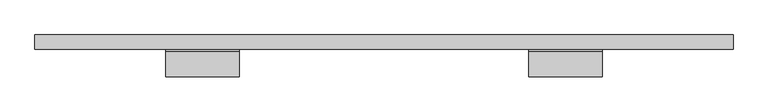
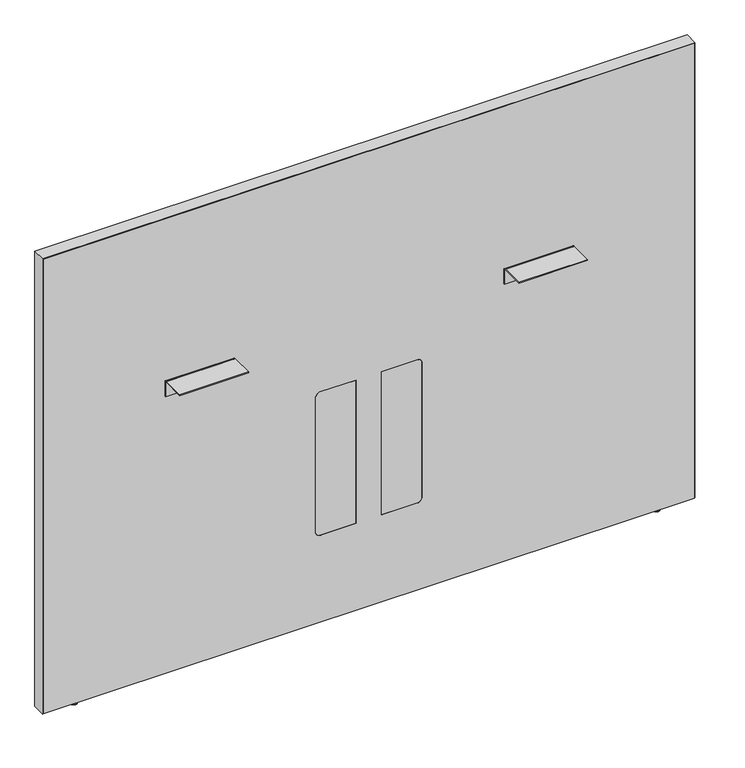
"""IFC4 building model written with IfcOpenShell, lengths in millimetres: furniture geometry, Steelcase - Answer Solution - Boundary Screen - Straight - Spanning : 42H x 57W."""

import ifcopenshell
import ifcopenshell.guid

model = None  # the IFC model being written
_history = None  # IfcOwnerHistory: only IFC2X3 demands one
_inside = {}  # id of a spatial element -> (the spatial element, [elements in it])
_under = {}  # id of a project, library or spatial element -> (it, [spatial elements below it])
_declared = {}  # id of a project -> (the project, [libraries it declares])
_typed = {}  # id of a type object -> (the type object, [elements of that type])
_made_of = {}  # id of a material, layer set ... -> (it, [elements and type objects made of it])


def new_model(schema):
    """Start an empty IFC model of exactly this schema.

    Asked for "IFC4X3", IfcOpenShell would pick the latest addendum, in which some entities
    have other attributes; the version numbers below select the first issue.
    IFC2X3 requires an IfcOwnerHistory on every rooted entity: one is made here for all.
    """
    global model, _history
    if schema == "IFC4X3":
        model = ifcopenshell.file(schema_version=(4, 3, 0, 0))
    else:
        model = ifcopenshell.file(schema=schema)
    _inside.clear()
    _under.clear()
    _declared.clear()
    _typed.clear()
    _made_of.clear()
    _history = None
    if model.schema == "IFC2X3":
        org = make("IfcOrganization", Name="unknown")
        user = make(
            "IfcPersonAndOrganization",
            ThePerson=make("IfcPerson", FamilyName="unknown"),
            TheOrganization=org,
        )
        app = make(
            "IfcApplication",
            ApplicationDeveloper=org,
            Version="unknown",
            ApplicationFullName="unknown",
            ApplicationIdentifier="unknown",
        )
        _history = make(
            "IfcOwnerHistory",
            OwningUser=user,
            OwningApplication=app,
            ChangeAction="ADDED",
            CreationDate=0,
        )
    return model


def make(cls, **values):
    """One entity of the class cls with the attributes given. An attribute that is None is left unset."""
    return model.create_entity(
        cls, **{name: value for name, value in values.items() if value is not None}
    )


def rooted(cls, **values):
    """An entity with a GlobalId (a new one), such as an element, a storey or a relation."""
    return make(cls, GlobalId=ifcopenshell.guid.new(), OwnerHistory=_history, **values)


def si_unit(unit_type, name, prefix=None):
    """IfcSIUnit, for example si_unit("LENGTHUNIT", "METRE", prefix="MILLI")."""
    return make("IfcSIUnit", UnitType=unit_type, Prefix=prefix, Name=name)


def assignment(units):
    """IfcUnitAssignment: the units of a project."""
    return None if units is None else make("IfcUnitAssignment", Units=units)


def point(xyz):
    """IfcCartesianPoint."""
    return None if xyz is None else make("IfcCartesianPoint", Coordinates=xyz)


def direction(xyz):
    """IfcDirection."""
    return None if xyz is None else make("IfcDirection", DirectionRatios=xyz)


def frame(location, z_axis=None, x_axis=None):
    """IfcAxis2Placement3D, a coordinate frame: its origin and axes. An axis left out is left unset."""
    return make(
        "IfcAxis2Placement3D",
        Location=point(location),
        Axis=direction(z_axis),
        RefDirection=direction(x_axis),
    )


def frame_2d(location, x_axis=None):
    """IfcAxis2Placement2D, a coordinate frame in the plane: its origin and x axis."""
    return make(
        "IfcAxis2Placement2D", Location=point(location), RefDirection=direction(x_axis)
    )


def origin():
    """The frame at (0, 0, 0) with its axes left unset."""
    return frame((0.0, 0.0, 0.0))


def place(relative_to, where):
    """IfcLocalPlacement: puts the frame where relative to a parent placement (None: the world)."""
    return make(
        "IfcLocalPlacement", PlacementRelTo=relative_to, RelativePlacement=where
    )


def context(
    kind, dimensions, precision=None, world=None, true_north=None, identifier=None
):
    """IfcGeometricRepresentationContext, for example the 3D "Model" context."""
    return make(
        "IfcGeometricRepresentationContext",
        ContextIdentifier=identifier,
        ContextType=kind,
        CoordinateSpaceDimension=dimensions,
        Precision=precision,
        WorldCoordinateSystem=world,
        TrueNorth=true_north,
    )


def project(units=None, contexts=None):
    """IfcProject with its units and contexts."""
    return rooted(
        "IfcProject",
        Name="project",
        RepresentationContexts=contexts,
        UnitsInContext=assignment(units),
    )


def spatial(cls, under=None, at=None, **own):
    """A site, building, storey or space (cls), placed at a placement, below another one or the project."""
    s = rooted(cls, ObjectPlacement=at, **own)
    if under is not None:
        _under.setdefault(under.id(), (under, []))[1].append(s)
    return s


def polyline(points):
    """IfcPolyline through the points."""
    return make("IfcPolyline", Points=[point(p) for p in points])


def circle_curve(where, radius):
    """IfcCircle in the frame where."""
    return make("IfcCircle", Position=where, Radius=radius)


def ellipse_curve(where, semi_axis1, semi_axis2):
    """IfcEllipse in the frame where."""
    return make(
        "IfcEllipse", Position=where, SemiAxis1=semi_axis1, SemiAxis2=semi_axis2
    )


def trimmed(basis, trim1, trim2, sense, master):
    """IfcTrimmedCurve: the piece of a basis curve between two trims."""
    return make(
        "IfcTrimmedCurve",
        BasisCurve=basis,
        Trim1=trim1,
        Trim2=trim2,
        SenseAgreement=sense,
        MasterRepresentation=master,
    )


def segment(curve, same_sense, transition):
    """IfcCompositeCurveSegment."""
    return make(
        "IfcCompositeCurveSegment",
        Transition=transition,
        SameSense=same_sense,
        ParentCurve=curve,
    )


def composite_curve(segments, self_intersect=None):
    """IfcCompositeCurve: segments joined end to end."""
    return make("IfcCompositeCurve", Segments=segments, SelfIntersect=self_intersect)


def outline(outer, holes=None, kind="AREA"):
    """IfcArbitraryClosedProfileDef: a profile drawn as a closed curve; with holes, ...WithVoids."""
    if holes is None:
        return make("IfcArbitraryClosedProfileDef", ProfileType=kind, OuterCurve=outer)
    return make(
        "IfcArbitraryProfileDefWithVoids",
        ProfileType=kind,
        OuterCurve=outer,
        InnerCurves=holes,
    )


def extrude(swept, where, along, depth):
    """IfcExtrudedAreaSolid: the profile swept, set in the frame where, extruded along a direction by depth."""
    return make(
        "IfcExtrudedAreaSolid",
        SweptArea=swept,
        Position=where,
        ExtrudedDirection=direction(along),
        Depth=depth,
    )


def shape(context_of_items, identifier, shape_type, items):
    """IfcShapeRepresentation: the items that make up one representation, for example the "Body"."""
    return make(
        "IfcShapeRepresentation",
        ContextOfItems=context_of_items,
        RepresentationIdentifier=identifier,
        RepresentationType=shape_type,
        Items=items,
    )


def source(mapping_origin, context_of_items, identifier, shape_type, items):
    """IfcRepresentationMap: a shape defined once, which mapped items show again and again."""
    return make(
        "IfcRepresentationMap",
        MappingOrigin=mapping_origin,
        MappedRepresentation=shape(context_of_items, identifier, shape_type, items),
    )


def transform(
    local_origin,
    x_axis=None,
    y_axis=None,
    z_axis=None,
    scale=None,
    scale2=None,
    scale3=None,
    uniform=True,
):
    """IfcCartesianTransformationOperator3D, or its non-uniform kind. x_axis, y_axis, z_axis: its Axis1, 2, 3."""
    if uniform:
        return make(
            "IfcCartesianTransformationOperator3D",
            Axis1=direction(x_axis),
            Axis2=direction(y_axis),
            LocalOrigin=point(local_origin),
            Scale=scale,
            Axis3=direction(z_axis),
        )
    return make(
        "IfcCartesianTransformationOperator3DnonUniform",
        Axis1=direction(x_axis),
        Axis2=direction(y_axis),
        LocalOrigin=point(local_origin),
        Scale=scale,
        Axis3=direction(z_axis),
        Scale2=scale2,
        Scale3=scale3,
    )


def mapped(mapping_source, mapping_target):
    """IfcMappedItem: shows the shape of a source again, moved by a transform."""
    return make(
        "IfcMappedItem", MappingSource=mapping_source, MappingTarget=mapping_target
    )


def made_of(thing, what):
    """Note that an element or type object is made of a material, layer set ...; save() writes the relation."""
    if what is not None:
        _made_of.setdefault(what.id(), (what, []))[1].append(thing)
    return thing


def element(
    cls,
    number,
    at=None,
    inside=None,
    cuts=None,
    type_object=None,
    material=None,
    context=None,
    identifier="Body",
    shape_type=None,
    held_by="IfcProductDefinitionShape",
    body=None,
    shapes=None,
    **own,
):
    """One element of the class cls, such as IfcWall. Its Tag is "e" and its number.

    at: its placement. inside: the storey or other place that contains it. cuts: it is an
    opening in that element (IfcRelVoidsElement). A single representation is given by context,
    identifier, shape_type and body (its items); several are given by shapes. held_by: the class
    of the entity that holds the representations. save() writes the other relations.
    """
    e = rooted(cls, Tag="e%d" % number, ObjectPlacement=at, **own)
    if body is not None:
        shapes = [shape(context, identifier, shape_type, body)]
    if shapes is not None:
        e.Representation = make(held_by, Representations=shapes)
    if inside is not None:
        _inside.setdefault(inside.id(), (inside, []))[1].append(e)
    if cuts is not None:
        rooted(
            "IfcRelVoidsElement", RelatingBuildingElement=cuts, RelatedOpeningElement=e
        )
    if type_object is not None:
        _typed.setdefault(type_object.id(), (type_object, []))[1].append(e)
    return made_of(e, material)


def aggregate(whole, parts):
    """IfcRelAggregates: a whole, such as a stair, and the parts it consists of."""
    return rooted("IfcRelAggregates", RelatingObject=whole, RelatedObjects=parts)


def save(model, path):
    """Write the relations noted so far, then the file.

    IfcRelAggregates (storeys below a building ...), IfcRelContainedInSpatialStructure (elements
    in a storey), IfcRelDefinesByType, IfcRelAssociatesMaterial and IfcRelDeclares: one each for
    every whole, place, type object, material and project.
    """
    for whole, parts in _under.values():
        aggregate(whole, parts)
    for where, things in _inside.values():
        rooted(
            "IfcRelContainedInSpatialStructure",
            RelatedElements=things,
            RelatingStructure=where,
        )
    for kind, things in _typed.values():
        rooted("IfcRelDefinesByType", RelatedObjects=things, RelatingType=kind)
    for what, things in _made_of.values():
        rooted("IfcRelAssociatesMaterial", RelatedObjects=things, RelatingMaterial=what)
    for by, libraries in _declared.values():
        rooted("IfcRelDeclares", RelatingContext=by, RelatedDefinitions=libraries)
    model.write(path)


def plane_surface(at):
    """IfcPlane: the flat surface through the origin of the frame at, square to its z axis."""
    return make("IfcPlane", Position=at)


def cylinder_surface(at, radius):
    """IfcCylindricalSurface: all points at the distance radius from the z axis of the frame at."""
    return make("IfcCylindricalSurface", Position=at, Radius=radius)


def revolved_surface(curve, axis_point, axis_direction):
    """IfcSurfaceOfRevolution: the curve turned about the line through axis_point along axis_direction."""
    return make(
        "IfcSurfaceOfRevolution",
        SweptCurve=make("IfcArbitraryOpenProfileDef", ProfileType="CURVE", Curve=curve),
        AxisPosition=make("IfcAxis1Placement", Location=point(axis_point), Axis=direction(axis_direction)),
    )


def advanced_brep(points, edges, surfaces, faces):
    """IfcAdvancedBrep: a solid bounded by faces that lie on surfaces and meet in shared edges.

    An edge is (start, end): straight between two places in points (the first is 0);
    or (start, end, curve); or (start, end, curve, False) where it runs against its curve.
    A face is (place in surfaces, loops), or (place, loops, False) where it looks against
    its surface's normal. A loop lists edges by number (the first is 1), with a minus sign
    where the edge is run from its end to its start. The first loop is the outer one.
    """
    corners = [point(p) for p in points]
    vertices = [make("IfcVertexPoint", VertexGeometry=c) for c in corners]
    made = []
    for start, end, *more in edges:
        made.append(
            make(
                "IfcEdgeCurve",
                EdgeStart=vertices[start],
                EdgeEnd=vertices[end],
                EdgeGeometry=more[0] if more else make("IfcPolyline", Points=[corners[start], corners[end]]),
                SameSense=more[1] if len(more) > 1 else True,
            )
        )
    hull = []
    for where, loops, *sense in faces:
        bounds = []
        for j, loop in enumerate(loops):
            ring = [make("IfcOrientedEdge", EdgeElement=made[abs(k) - 1], Orientation=k > 0) for k in loop]
            bounds.append(
                make(
                    "IfcFaceOuterBound" if j == 0 else "IfcFaceBound",
                    Bound=make("IfcEdgeLoop", EdgeList=ring),
                    Orientation=True,
                )
            )
        hull.append(make("IfcAdvancedFace", Bounds=bounds, FaceSurface=surfaces[where], SameSense=sense[0] if sense else True))
    return make("IfcAdvancedBrep", Outer=make("IfcClosedShell", CfsFaces=hull))


def furniture_466a3dec(model_context):
    return source(origin(), model_context, "Body", "SolidModel", [
        advanced_brep(
        [(-416.8902705, -14.8449166, 9.9059849), (-416.8902705, -5.9309607, 9.9059849), (-416.8902705, -23.7588726, 9.9059849), (-416.8902705, -5.9309607, 2.9673238), (-416.8902705, -23.7588726, 2.9673238), (-416.8902705, -6.8982978, 2.9673238), (-416.8902705, -22.7915354, 2.9673238), (-416.8902705, -6.8982978, 1.6569081), (-416.8902705, -22.7915354, 1.6569081), (-416.8902705, -8.5552059, 0.0), (-416.8902705, -21.1346274, 0.0), (-416.8902705, -14.8449166, 0.0)],
        [
            (0, 1),
            (1, 2, circle_curve(frame((-416.8902705, -14.8449166, 9.9059849), z_axis=(0.0, 0.0, 1.0), x_axis=(0.0, 1.0, 0.0)), 8.913956)),
            (2, 0),
            (2, 1, circle_curve(frame((-416.8902705, -14.8449166, 9.9059849), z_axis=(0.0, 0.0, 1.0), x_axis=(0.0, 1.0, 0.0)), 8.913956)),
            (1, 3),
            (3, 4, circle_curve(frame((-416.8902705, -14.8449166, 2.9673238), z_axis=(0.0, 0.0, 1.0), x_axis=(0.0, 1.0, 0.0)), 8.913956)),
            (4, 2),
            (4, 3, circle_curve(frame((-416.8902705, -14.8449166, 2.9673238), z_axis=(0.0, 0.0, 1.0), x_axis=(0.0, 1.0, 0.0)), 8.913956)),
            (3, 5),
            (5, 6, circle_curve(frame((-416.8902705, -14.8449166, 2.9673238), z_axis=(0.0, 0.0, 1.0), x_axis=(0.0, 1.0, 0.0)), 7.9466188)),
            (6, 4),
            (6, 5, circle_curve(frame((-416.8902705, -14.8449166, 2.9673238), z_axis=(0.0, 0.0, 1.0), x_axis=(0.0, 1.0, 0.0)), 7.9466188)),
            (5, 7),
            (7, 8, circle_curve(frame((-416.8902705, -14.8449166, 1.6569081), z_axis=(0.0, 0.0, 1.0), x_axis=(0.0, 1.0, 0.0)), 7.9466188)),
            (8, 6),
            (8, 7, circle_curve(frame((-416.8902705, -14.8449166, 1.6569081), z_axis=(0.0, 0.0, 1.0), x_axis=(0.0, 1.0, 0.0)), 7.9466188)),
            (7, 9, circle_curve(frame((-416.8902705, -8.5552059, 1.6569081), z_axis=(-1.0, 0.0, 0.0), x_axis=(0.0, 1.0, 0.0)), 1.6569081)),
            (9, 10, circle_curve(frame((-416.8902705, -14.8449166, 0.0), z_axis=(0.0, 0.0, 1.0), x_axis=(0.0, 1.0, 0.0)), 6.2897107)),
            (10, 8, circle_curve(frame((-416.8902705, -21.1346274, 1.6569081), z_axis=(-1.0, 0.0, 0.0), x_axis=(0.0, -1.0, 0.0)), 1.6569081)),
            (10, 9, circle_curve(frame((-416.8902705, -14.8449166, 0.0), z_axis=(0.0, 0.0, 1.0), x_axis=(0.0, 1.0, 0.0)), 6.2897107)),
            (9, 11),
            (11, 10),
        ],
        [
            plane_surface(frame((-416.8902705, -14.8449166, 9.9059849), z_axis=(0.0, 0.0, 1.0), x_axis=(0.0, 1.0, 0.0))),
            cylinder_surface(frame((-416.8902705, -14.8449166, 9.9059849), z_axis=(0.0, 0.0, 1.0), x_axis=(0.0, 1.0, 0.0)), 8.913956),
            plane_surface(frame((-416.8902705, -14.8449166, 2.9673238), z_axis=(0.0, 0.0, -1.0), x_axis=(0.0, 1.0, 0.0))),
            cylinder_surface(frame((-416.8902705, -14.8449166, 9.9059849), z_axis=(0.0, 0.0, 1.0), x_axis=(0.0, 1.0, 0.0)), 7.9466188),
            revolved_surface(trimmed(ellipse_curve(frame((-416.8902705, -8.5552059, 1.6569081), z_axis=(1.0, 0.0, 0.0), x_axis=(0.0, 1.0, 0.0)), 1.6569081, 1.6569081), [point((-416.8902705, -8.5552059, 0.0))], [point((-416.8902705, -6.8982978, 1.6569081))], True, "CARTESIAN"), (-416.8902705, -14.8449166, 9.9059849), (0.0, 0.0, 1.0)),
            plane_surface(frame((-416.8902705, -14.8449166, 0.0), z_axis=(0.0, 0.0, -1.0), x_axis=(0.0, 1.0, 0.0))),
        ],
        [
            (0, [[1, 2, 3]]),
            (0, [[-3, 4, -1]]),
            (1, [[-2, 5, 6, 7]]),
            (1, [[-4, -7, 8, -5]]),
            (2, [[-6, 9, 10, 11]]),
            (2, [[-8, -11, 12, -9]]),
            (3, [[-10, 13, 14, 15]]),
            (3, [[-12, -15, 16, -13]]),
            (4, [[-14, 17, 18, 19]]),
            (4, [[-16, -19, 20, -17]]),
            (5, [[-18, 21, 22]]),
            (5, [[-20, -22, -21]]),
        ],
    ),
        extrude(outline(composite_curve([segment(polyline([(-86.8398151, 696.4680019), (-86.8398151, 698.5), (-34.9450855, 698.5)]), True, "CONTINUOUS"), segment(trimmed(circle_curve(frame_2d((-34.9450855, 693.2447477)), 5.2552523), [point((-34.9450855, 698.5))], [point((-29.6898332, 693.2447477))], False, "CARTESIAN"), True, "CONTINUOUS"), segment(polyline([(-29.6898332, 693.2447477), (-29.6898332, 660.4), (-31.7218162, 660.4), (-31.7218162, 693.0058743)]), True, "CONTINUOUS"), segment(trimmed(circle_curve(frame_2d((-35.1839438, 693.0058743)), 3.4621276), [point((-31.7218162, 693.0058743))], [point((-35.1839438, 696.4680019))], True, "CARTESIAN"), True, "CONTINUOUS"), segment(polyline([(-35.1839438, 696.4680019), (-86.8398151, 696.4680019)]), True, "CONTINUOUS")], self_intersect=False)), frame((529.7282189, 0.0, 0.0), z_axis=(1.0, 0.0, 0.0), x_axis=(0.0, 1.0, 0.0)), (0.0, 0.0, 1.0), 152.4000969),
        extrude(outline(composite_curve([segment(polyline([(-86.8398151, 696.4680019), (-86.8398151, 698.5), (-34.9450855, 698.5)]), True, "CONTINUOUS"), segment(trimmed(circle_curve(frame_2d((-34.9450855, 693.2447477)), 5.2552523), [point((-34.9450855, 698.5))], [point((-29.6898332, 693.2447477))], False, "CARTESIAN"), True, "CONTINUOUS"), segment(polyline([(-29.6898332, 693.2447477), (-29.6898332, 660.4), (-31.7218162, 660.4), (-31.7218162, 693.0058743)]), True, "CONTINUOUS"), segment(trimmed(circle_curve(frame_2d((-35.1839438, 693.0058743)), 3.4621276), [point((-31.7218162, 693.0058743))], [point((-35.1839438, 696.4680019))], True, "CARTESIAN"), True, "CONTINUOUS"), segment(polyline([(-35.1839438, 696.4680019), (-86.8398151, 696.4680019)]), True, "CONTINUOUS")], self_intersect=False)), frame((-222.4884581, 0.0, 0.0), z_axis=(1.0, 0.0, 0.0), x_axis=(0.0, 1.0, 0.0)), (0.0, 0.0, 1.0), 152.4000969),
        advanced_brep(
        [(876.5286488, -23.7588726, 9.9059849), (876.5286488, -5.9309607, 9.9059849), (876.5286488, -14.8449166, 9.9059849), (876.5286488, -23.7588726, 2.9673238), (876.5286488, -5.9309607, 2.9673238), (876.5286488, -22.7915354, 2.9673238), (876.5286488, -6.8982978, 2.9673238), (876.5286488, -22.7915354, 1.6569081), (876.5286488, -6.8982978, 1.6569081), (876.5286488, -21.1346274, 0.0), (876.5286488, -8.5552059, 0.0), (876.5286488, -14.8449166, 0.0)],
        [
            (0, 1, circle_curve(frame((876.5286488, -14.8449166, 9.9059849), z_axis=(0.0, 0.0, 1.0), x_axis=(0.0, 1.0, 0.0)), 8.913956)),
            (1, 2),
            (2, 0),
            (1, 0, circle_curve(frame((876.5286488, -14.8449166, 9.9059849), z_axis=(0.0, 0.0, 1.0), x_axis=(0.0, 1.0, 0.0)), 8.913956)),
            (3, 4, circle_curve(frame((876.5286488, -14.8449166, 2.9673238), z_axis=(0.0, 0.0, 1.0), x_axis=(0.0, 1.0, 0.0)), 8.913956)),
            (4, 1),
            (0, 3),
            (4, 3, circle_curve(frame((876.5286488, -14.8449166, 2.9673238), z_axis=(0.0, 0.0, 1.0), x_axis=(0.0, 1.0, 0.0)), 8.913956)),
            (5, 6, circle_curve(frame((876.5286488, -14.8449166, 2.9673238), z_axis=(0.0, 0.0, 1.0), x_axis=(0.0, 1.0, 0.0)), 7.9466188)),
            (6, 4),
            (3, 5),
            (6, 5, circle_curve(frame((876.5286488, -14.8449166, 2.9673238), z_axis=(0.0, 0.0, 1.0), x_axis=(0.0, 1.0, 0.0)), 7.9466188)),
            (7, 8, circle_curve(frame((876.5286488, -14.8449166, 1.6569081), z_axis=(0.0, 0.0, 1.0), x_axis=(0.0, 1.0, 0.0)), 7.9466188)),
            (8, 6),
            (5, 7),
            (8, 7, circle_curve(frame((876.5286488, -14.8449166, 1.6569081), z_axis=(0.0, 0.0, 1.0), x_axis=(0.0, 1.0, 0.0)), 7.9466188)),
            (9, 10, circle_curve(frame((876.5286488, -14.8449166, 0.0), z_axis=(0.0, 0.0, 1.0), x_axis=(0.0, 1.0, 0.0)), 6.2897107)),
            (10, 8, circle_curve(frame((876.5286488, -8.5552059, 1.6569081), z_axis=(1.0, 0.0, 0.0), x_axis=(0.0, 1.0, 0.0)), 1.6569081)),
            (7, 9, circle_curve(frame((876.5286488, -21.1346274, 1.6569081), z_axis=(1.0, 0.0, 0.0), x_axis=(0.0, -1.0, 0.0)), 1.6569081)),
            (10, 9, circle_curve(frame((876.5286488, -14.8449166, 0.0), z_axis=(0.0, 0.0, 1.0), x_axis=(0.0, 1.0, 0.0)), 6.2897107)),
            (11, 10),
            (9, 11),
        ],
        [
            plane_surface(frame((876.5286488, -14.8449166, 9.9059849), z_axis=(0.0, 0.0, 1.0), x_axis=(0.0, 1.0, 0.0))),
            cylinder_surface(frame((876.5286488, -14.8449166, 9.9059849), z_axis=(0.0, 0.0, -1.0), x_axis=(0.0, 1.0, 0.0)), 8.913956),
            plane_surface(frame((876.5286488, -14.8449166, 2.9673238), z_axis=(0.0, 0.0, -1.0), x_axis=(0.0, 1.0, 0.0))),
            cylinder_surface(frame((876.5286488, -14.8449166, 9.9059849), z_axis=(0.0, 0.0, -1.0), x_axis=(0.0, 1.0, 0.0)), 7.9466188),
            revolved_surface(trimmed(ellipse_curve(frame((876.5286488, -8.5552059, 1.6569081), z_axis=(-1.0, 0.0, 0.0), x_axis=(0.0, 1.0, 0.0)), 1.6569081, 1.6569081), [point((876.5286488, -6.8982978, 1.6569081))], [point((876.5286488, -8.5552059, 0.0))], True, "CARTESIAN"), (876.5286488, -14.8449166, 9.9059849), (0.0, 0.0, -1.0)),
            plane_surface(frame((876.5286488, -14.8449166, 0.0), z_axis=(0.0, 0.0, -1.0), x_axis=(0.0, 1.0, 0.0))),
        ],
        [
            (0, [[1, 2, 3]]),
            (0, [[4, -3, -2]]),
            (1, [[5, 6, -1, 7]]),
            (1, [[8, -7, -4, -6]]),
            (2, [[9, 10, -5, 11]]),
            (2, [[12, -11, -8, -10]]),
            (3, [[13, 14, -9, 15]]),
            (3, [[16, -15, -12, -14]]),
            (4, [[17, 18, -13, 19]]),
            (4, [[20, -19, -16, -18]]),
            (5, [[21, -17, 22]]),
            (5, [[-22, -20, -21]]),
        ],
    ),
        advanced_brep(
        [(952.6780168, 0.0, 1076.742118), (952.6780168, 0.0, 9.9059849), (-493.0902221, 0.0, 9.9059849), (-493.0902221, 0.0, 1076.742118), (952.6780168, -29.6898332, 1076.742118), (-493.0902221, -29.6898332, 1076.742118), (-493.0902221, -29.6898332, 9.9059849), (952.6780168, -29.6898332, 9.9059849), (337.7883813, -29.6898332, 549.6162029), (347.9483813, -29.6898332, 539.4562029), (347.9483813, -29.6898332, 223.9362137), (337.7883813, -29.6898332, 213.7762137), (258.1344836, -29.6898332, 213.7762137), (258.1344836, -29.6898332, 549.6162029), (121.849997, -29.6898332, 549.6162029), (201.5038947, -29.6898332, 549.6162029), (201.5038947, -29.6898332, 213.7762137), (121.849997, -29.6898332, 213.7762137), (111.689997, -29.6898332, 223.9362137), (111.689997, -29.6898332, 539.4562029), (258.1344836, -29.0550397, 549.6162029), (337.7883813, -29.0550397, 549.6162029), (258.1344836, -29.0550397, 213.7762137), (337.7883813, -29.0550397, 213.7762137), (347.9483813, -29.0550397, 223.9362137), (347.9483813, -29.0550397, 539.4562029), (121.849997, -29.0550397, 549.6162029), (111.689997, -29.0550397, 539.4562029), (111.689997, -29.0550397, 223.9362137), (121.849997, -29.0550397, 213.7762137), (201.5038947, -29.0550397, 213.7762137), (201.5038947, -29.0550397, 549.6162029)],
        [
            (0, 1),
            (1, 2),
            (2, 3),
            (3, 0),
            (4, 5),
            (5, 6),
            (6, 7),
            (7, 4),
            (8, 9, circle_curve(frame((337.7883813, -29.6898332, 539.4562029), z_axis=(0.0, 1.0, 0.0), x_axis=(0.0, 0.0, 1.0)), 10.16)),
            (9, 10),
            (10, 11, circle_curve(frame((337.7883813, -29.6898332, 223.9362137), z_axis=(0.0, 1.0, 0.0), x_axis=(0.0, 0.0, 1.0)), 10.16)),
            (11, 12),
            (12, 13),
            (13, 8),
            (14, 15),
            (15, 16),
            (16, 17),
            (17, 18, circle_curve(frame((121.849997, -29.6898332, 223.9362137), z_axis=(0.0, 1.0, 0.0), x_axis=(0.0, 0.0, 1.0)), 10.16)),
            (18, 19),
            (19, 14, circle_curve(frame((121.849997, -29.6898332, 539.4562029), z_axis=(0.0, 1.0, 0.0), x_axis=(0.0, 0.0, 1.0)), 10.16)),
            (0, 4),
            (7, 1),
            (6, 2),
            (5, 3),
            (13, 20),
            (20, 21),
            (21, 8),
            (12, 22),
            (22, 20),
            (11, 23),
            (23, 22),
            (10, 24),
            (24, 23, circle_curve(frame((337.7883813, -29.0550397, 223.9362137), z_axis=(0.0, 1.0, 0.0), x_axis=(0.0, 0.0, 1.0)), 10.16)),
            (9, 25),
            (25, 24),
            (21, 25, circle_curve(frame((337.7883813, -29.0550397, 539.4562029), z_axis=(0.0, 1.0, 0.0), x_axis=(0.0, 0.0, 1.0)), 10.16)),
            (26, 27, circle_curve(frame((121.849997, -29.0550397, 539.4562029), z_axis=(0.0, -1.0, 0.0), x_axis=(0.0, 0.0, 1.0)), 10.16)),
            (27, 28),
            (28, 29, circle_curve(frame((121.849997, -29.0550397, 223.9362137), z_axis=(0.0, -1.0, 0.0), x_axis=(0.0, 0.0, 1.0)), 10.16)),
            (29, 30),
            (30, 31),
            (31, 26),
            (19, 27),
            (26, 14),
            (18, 28),
            (17, 29),
            (16, 30),
            (15, 31),
        ],
        [
            plane_surface(frame((952.6780168, 0.0, 1076.742118), z_axis=(0.0, 1.0, 0.0), x_axis=(0.0, 0.0, -1.0))),
            plane_surface(frame((952.6780168, -29.6898332, 1076.742118), z_axis=(0.0, -1.0, 0.0), x_axis=(0.0, 0.0, 1.0))),
            plane_surface(frame((952.6780168, 0.0, 1076.742118), z_axis=(1.0, 0.0, 0.0), x_axis=(0.0, -1.0, 0.0))),
            plane_surface(frame((952.6780168, 0.0, 9.9059849), z_axis=(0.0, 0.0, -1.0), x_axis=(0.0, -1.0, 0.0))),
            plane_surface(frame((-493.0902221, 0.0, 9.9059849), z_axis=(-1.0, 0.0, 0.0), x_axis=(0.0, -1.0, 0.0))),
            plane_surface(frame((-493.0902221, 0.0, 1076.742118), z_axis=(0.0, 0.0, 1.0), x_axis=(0.0, -1.0, 0.0))),
            plane_surface(frame((337.7883813, 0.0, 549.6162029), z_axis=(0.0, 0.0, -1.0), x_axis=(0.0, -1.0, 0.0))),
            plane_surface(frame((258.1344836, 0.0, 549.6162029), z_axis=(1.0, 0.0, 0.0), x_axis=(0.0, -1.0, 0.0))),
            plane_surface(frame((258.1344836, 0.0, 213.7762137), z_axis=(0.0, 0.0, 1.0), x_axis=(0.0, -1.0, 0.0))),
            revolved_surface(polyline([(337.7883813, -29.6898332, 234.0962137), (337.7883813, -29.0550397, 234.0962137)]), (337.7883813, -29.6898332, 223.9362137), (0.0, -1.0, 0.0)),
            plane_surface(frame((347.9483813, 0.0, 223.9362137), z_axis=(-1.0, 0.0, 0.0), x_axis=(0.0, -1.0, 0.0))),
            revolved_surface(polyline([(337.7883813, -29.6898332, 549.6162029), (337.7883813, -29.0550397, 549.6162029)]), (337.7883813, -29.6898332, 539.4562029), (0.0, -1.0, 0.0)),
            plane_surface(frame((347.9483813, -29.0550397, 549.6162029), z_axis=(0.0, -1.0, 0.0), x_axis=(0.0, 0.0, 1.0))),
            revolved_surface(polyline([(121.849997, -29.6898332, 549.6162029), (121.849997, -29.0550397, 549.6162029)]), (121.849997, -29.6898332, 539.4562029), (0.0, -1.0, 0.0)),
            plane_surface(frame((111.689997, 0.0, 539.4562029), z_axis=(1.0, 0.0, 0.0), x_axis=(0.0, -1.0, 0.0))),
            revolved_surface(polyline([(121.849997, -29.6898332, 234.0962137), (121.849997, -29.0550397, 234.0962137)]), (121.849997, -29.6898332, 223.9362137), (0.0, -1.0, 0.0)),
            plane_surface(frame((121.849997, 0.0, 213.7762137), z_axis=(0.0, 0.0, 1.0), x_axis=(0.0, -1.0, 0.0))),
            plane_surface(frame((201.5038947, 0.0, 213.7762137), z_axis=(-1.0, 0.0, 0.0), x_axis=(0.0, -1.0, 0.0))),
            plane_surface(frame((201.5038947, 0.0, 549.6162029), z_axis=(0.0, 0.0, -1.0), x_axis=(0.0, -1.0, 0.0))),
        ],
        [
            (0, [[1, 2, 3, 4]]),
            (1, [[5, 6, 7, 8], [9, 10, 11, 12, 13, 14], [15, 16, 17, 18, 19, 20]]),
            (2, [[-1, 21, -8, 22]]),
            (3, [[-2, -22, -7, 23]]),
            (4, [[-3, -23, -6, 24]]),
            (5, [[-4, -24, -5, -21]]),
            (6, [[-14, 25, 26, 27]]),
            (7, [[-13, 28, 29, -25]]),
            (8, [[-12, 30, 31, -28]]),
            (9, [[-11, 32, 33, -30]]),
            (10, [[-10, 34, 35, -32]]),
            (11, [[-9, -27, 36, -34]]),
            (12, [[-26, -29, -31, -33, -35, -36]]),
            (12, [[37, 38, 39, 40, 41, 42]]),
            (13, [[-20, 43, -37, 44]]),
            (14, [[-19, 45, -38, -43]]),
            (15, [[-18, 46, -39, -45]]),
            (16, [[-17, 47, -40, -46]]),
            (17, [[-16, 48, -41, -47]]),
            (18, [[-15, -44, -42, -48]]),
        ],
    ),
        extrude(outline(composite_curve([segment(polyline([(549.6162029, 337.7883813), (549.6162029, 258.1344836), (213.7762137, 258.1344836), (213.7762137, 337.7883813)]), True, "CONTINUOUS"), segment(trimmed(circle_curve(frame_2d((223.9362137, 337.7883813)), 10.16), [point((213.7762137, 337.7883813))], [point((223.9362137, 347.9483813))], False, "CARTESIAN"), True, "CONTINUOUS"), segment(polyline([(223.9362137, 347.9483813), (539.4562029, 347.9483813)]), True, "CONTINUOUS"), segment(trimmed(circle_curve(frame_2d((539.4562029, 337.7883813)), 10.16), [point((539.4562029, 347.9483813))], [point((549.6162029, 337.7883813))], False, "CARTESIAN"), True, "CONTINUOUS")], self_intersect=False)), frame((0.0, -29.6898332, 0.0), z_axis=(0.0, 1.0, 0.0), x_axis=(0.0, 0.0, 1.0)), (0.0, 0.0, 1.0), 0.6347935),
        extrude(outline(composite_curve([segment(trimmed(circle_curve(frame_2d((539.4562029, 121.849997)), 10.16), [point((549.6162029, 121.849997))], [point((539.4562029, 111.689997))], False, "CARTESIAN"), True, "CONTINUOUS"), segment(polyline([(539.4562029, 111.689997), (223.9362137, 111.689997)]), True, "CONTINUOUS"), segment(trimmed(circle_curve(frame_2d((223.9362137, 121.849997)), 10.16), [point((223.9362137, 111.689997))], [point((213.7762137, 121.849997))], False, "CARTESIAN"), True, "CONTINUOUS"), segment(polyline([(213.7762137, 121.849997), (213.7762137, 201.5038947), (549.6162029, 201.5038947), (549.6162029, 121.849997)]), True, "CONTINUOUS")], self_intersect=False)), frame((0.0, -29.6898332, 0.0), z_axis=(0.0, 1.0, 0.0), x_axis=(0.0, 0.0, 1.0)), (0.0, 0.0, 1.0), 0.6347935),
        extrude(outline(polyline([(1077.722, 953.7191891), (1077.722, -494.0808109), (9.9059849, -494.0808109), (9.9059849, -493.0902221), (1076.742118, -493.0902221), (1076.742118, 952.6780168), (9.9059849, 952.6780168), (9.9059849, 953.7191891), (1077.722, 953.7191891)])), frame((0.0, -29.6898332, 0.0), z_axis=(0.0, 1.0, 0.0), x_axis=(0.0, 0.0, 1.0)), (0.0, 0.0, 1.0), 29.6898332),
    ])


if __name__ == "__main__":
    model = new_model("IFC4")
    model_context = context("Model", 3, world=origin())
    ifc_project = project(units=[si_unit("LENGTHUNIT", "METRE", prefix="MILLI")], contexts=[model_context])
    site = spatial("IfcSite", under=ifc_project)
    building = spatial("IfcBuilding", under=site)
    placement = place(None, origin())
    furniture_shape = furniture_466a3dec(model_context)
    element("IfcFurniture", 1, ObjectType="Steelcase - Answer Solution - Boundary Screen - Straight - Spanning : 42H x 57W", at=placement, inside=building, context=model_context, shape_type="MappedRepresentation", body=[
        mapped(furniture_shape, transform((0.0, 0.0, 0.0), x_axis=(1.0, 0.0, 0.0), y_axis=(0.0, 1.0, 0.0), z_axis=(0.0, 0.0, 1.0))),
    ])
    save(model, "model.ifc")
